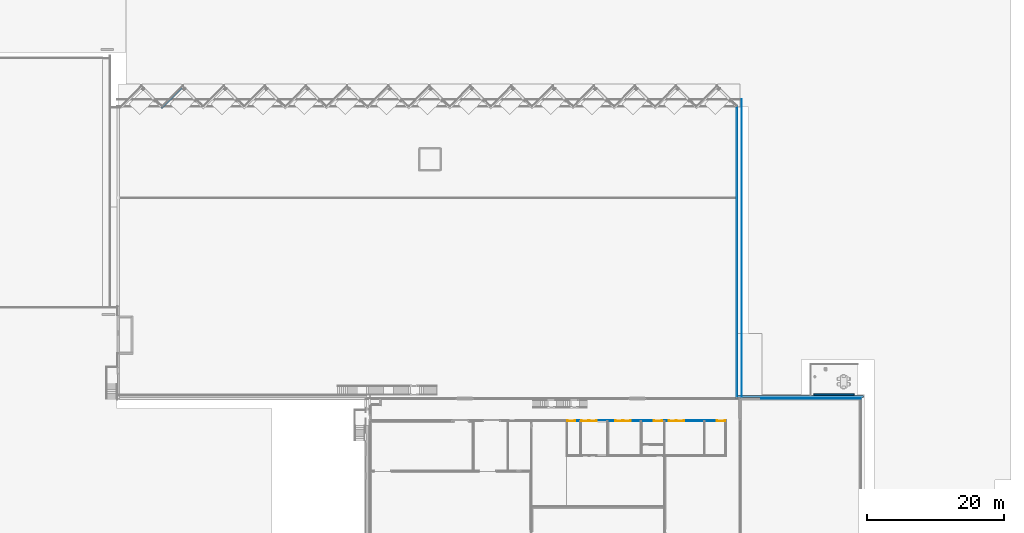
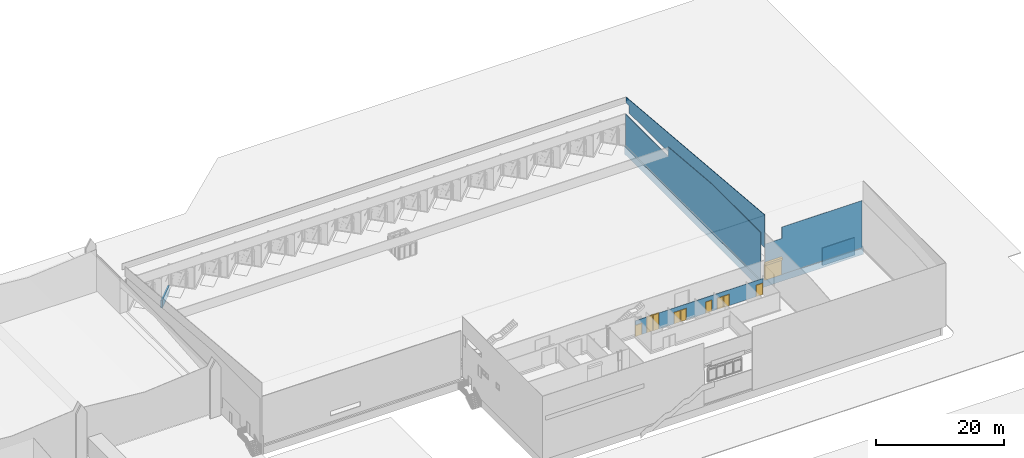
# One storey, part 25 of 64: 10 doors, 8 walls, 13 openings.
"""IFC2X3 building model written with IfcOpenShell, lengths in millimetres."""

from ifc_helpers import new_model, entity, si_unit, converted_unit, derived_unit, direction, frame, frame_2d, origin, origin_2d_with_axis, place, context, subcontext, project, spatial, polyline, rectangle, outline, extrude, clip, halfspace, source, transform, mapped, material, material_list, layer, layer_set, layer_usage, type_object, type_shapes, element, fill, save


model = new_model("IFC2X3")

# Units and contexts
model_context = context("Model", 3, precision=0.01, world=origin(), true_north=direction((4.05803320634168e-15, -1.0)))
body_context = subcontext(model_context, "Body", "Model", "MODEL_VIEW")
ifc_project = project(units=[si_unit("LENGTHUNIT", "METRE", prefix="MILLI"), si_unit("AREAUNIT", "SQUARE_METRE"), si_unit("VOLUMEUNIT", "CUBIC_METRE"), converted_unit("PLANEANGLEUNIT", "DEGREE", entity("IfcRatioMeasure", 0.0174532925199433), si_unit("PLANEANGLEUNIT", "RADIAN"), dimensions=[0, 0, 0, 0, 0, 0, 0]), si_unit("MASSUNIT", "GRAM", prefix="KILO"), derived_unit("MASSDENSITYUNIT", [(si_unit("MASSUNIT", "GRAM", prefix="KILO"), 1), (si_unit("LENGTHUNIT", "METRE"), -3)]), si_unit("TIMEUNIT", "SECOND"), si_unit("FREQUENCYUNIT", "HERTZ"), si_unit("THERMODYNAMICTEMPERATUREUNIT", "DEGREE_CELSIUS"), derived_unit("THERMALTRANSMITTANCEUNIT", [(si_unit("MASSUNIT", "GRAM", prefix="KILO"), 1), (si_unit("THERMODYNAMICTEMPERATUREUNIT", "KELVIN"), -1), (si_unit("TIMEUNIT", "SECOND"), -3)]), derived_unit("VOLUMETRICFLOWRATEUNIT", [(si_unit("LENGTHUNIT", "METRE"), 3), (si_unit("TIMEUNIT", "SECOND"), -1)]), si_unit("ELECTRICCURRENTUNIT", "AMPERE"), si_unit("ELECTRICVOLTAGEUNIT", "VOLT"), si_unit("POWERUNIT", "WATT"), si_unit("FORCEUNIT", "NEWTON", prefix="KILO"), si_unit("ILLUMINANCEUNIT", "LUX"), si_unit("LUMINOUSFLUXUNIT", "LUMEN"), si_unit("LUMINOUSINTENSITYUNIT", "CANDELA"), derived_unit("USERDEFINED", [(si_unit("MASSUNIT", "GRAM", prefix="KILO"), -1), (si_unit("LENGTHUNIT", "METRE"), -2), (si_unit("TIMEUNIT", "SECOND"), 3), (si_unit("LUMINOUSFLUXUNIT", "LUMEN"), 1)]), derived_unit("LINEARVELOCITYUNIT", [(si_unit("LENGTHUNIT", "METRE"), 1), (si_unit("TIMEUNIT", "SECOND"), -1)]), si_unit("PRESSUREUNIT", "PASCAL"), derived_unit("USERDEFINED", [(si_unit("LENGTHUNIT", "METRE"), -2), (si_unit("MASSUNIT", "GRAM", prefix="KILO"), 1), (si_unit("TIMEUNIT", "SECOND"), -2)])], contexts=[model_context])

# Site, building, storey
site_placement = place(None, frame((927466.849349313, 583801.882853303, 0.0), z_axis=(0.0, 0.0, 1.0), x_axis=(-1.0, 0.0, 0.0)))
site = spatial("IfcSite", under=ifc_project, at=site_placement, Name="Surface", CompositionType="ELEMENT")
building_placement = place(site_placement, origin())
building = spatial("IfcBuilding", under=site, at=building_placement, CompositionType="ELEMENT")
storey_placement = place(building_placement, frame((0.0, 0.0, 44170.0)))
storey = spatial("IfcBuildingStorey", under=building, at=storey_placement, Name="Ground FFL", CompositionType="ELEMENT", Elevation=44170.0)

# Wall, opening
ifc_material_1 = material(Name="Isopenal")
ifc_layer_1 = layer(ifc_material_1, 100.0)
ifc_layer_set_1 = layer_set([ifc_layer_1], Name="Basic Wall:Isopanel")
ifc_layer_usage_1 = layer_usage(ifc_layer_set_1, "AXIS2", "POSITIVE", -50.0)
wall_type_1 = type_object("IfcWallType", Name="Basic Wall:Isopanel", PredefinedType="STANDARD", material=ifc_layer_set_1)
wall_1_placement = place(storey_placement, frame((-134850.59177989, -30556.7403210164, 0.0), z_axis=(0.0, 0.0, 1.0), x_axis=(0.0, 1.0, 0.0)))
wall_1 = element("IfcWallStandardCase", 1, at=wall_1_placement, inside=storey, type_object=wall_type_1, material=ifc_layer_usage_1, Name="Basic Wall:Isopanel", ObjectType="Basic Wall:Isopanel", context=body_context, shape_type="Clipping", body=[
    clip(clip(extrude(rectangle(XDim=42155.0180722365, YDim=100.000000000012, at=frame_2d((21077.5090361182, -6.32027763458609e-12), x_axis=(-1.0, 0.0))), origin(), (0.0, 0.0, 1.0), 8999.99999999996), halfspace(frame((13235.0, -50.0, 7803.95560293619), z_axis=(-0.0873184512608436, 0.0, 0.996180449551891), x_axis=(0.0, 1.0, 0.0)), False)), halfspace(frame((13285.0, 0.0, 7808.33826529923), z_axis=(-0.134378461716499, 0.0, 0.990930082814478), x_axis=(0.0, 1.0, 0.0)), False)),
])
opening_1_placement = place(wall_1_placement, origin())
element("IfcOpeningElement", 2, at=opening_1_placement, cuts=wall_1, Name="Basic Wall:Isopanel", ObjectType="Opening", context=body_context, shape_type="SweptSolid", body=[
    extrude(outline(polyline([(-4566.68536101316, -597.312262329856), (8890.36900767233, -597.31226232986), (-4323.68364665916, 1194.62452465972), (-4566.68536101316, -597.312262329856)])), frame((8840.0, 50.0, 6602.7794217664), z_axis=(0.0, -1.0, 0.0), x_axis=(-0.990930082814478, 0.0, -0.134378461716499)), (0.0, 0.0, 1.0), 100.0),
])

# Wall, openings, doors
ifc_layer_usage_2 = layer_usage(ifc_layer_set_1, "AXIS2", "NEGATIVE", 50.0)
wall_2_placement = place(storey_placement, frame((-110127.93727682, 15157.4703267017, 0.0), z_axis=(0.0, 0.0, 1.0), x_axis=(-1.0, 0.0, 0.0)))
wall_2 = element("IfcWallStandardCase", 3, at=wall_2_placement, inside=storey, type_object=wall_type_1, material=ifc_layer_usage_2, Name="Basic Wall:Isopanel", ObjectType="Basic Wall:Isopanel", context=body_context, shape_type="SweptSolid", body=[
    extrude(rectangle(XDim=23020.0000000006, YDim=99.9999999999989, at=frame_2d((11510.0000000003, 2.02504679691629e-13), x_axis=(-1.0, 0.0))), origin(), (0.0, 0.0, 1.0), 3000.00000000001),
])
opening_2_placement = place(wall_2_placement, frame((22920.0, 50.0, 0.0)))
opening_2 = element("IfcOpeningElement", 4, at=opening_2_placement, cuts=wall_2, Name="M_Single-Flush:1050 x 2134mm:1", ObjectType="Opening", context=body_context, shape_type="SweptSolid", body=[
    extrude(rectangle(XDim=1050.0, YDim=2134.0, at=frame_2d((1067.0, 525.000000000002), x_axis=(0.0, -1.0))), frame((0.0, 0.0, 0.0), z_axis=(0.0, -1.0, 0.0), x_axis=(0.0, 0.0, 1.0)), (0.0, 0.0, 1.0), 100.0),
])
opening_3_placement = place(wall_2_placement, frame((16934.0, 50.0, 0.0)))
opening_3 = element("IfcOpeningElement", 5, at=opening_3_placement, cuts=wall_2, Name="M_Single-Flush:1050 x 2134mm:1", ObjectType="Opening", context=body_context, shape_type="SweptSolid", body=[
    extrude(rectangle(XDim=1050.0, YDim=2134.0, at=frame_2d((1067.0, 525.000000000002), x_axis=(0.0, -1.0))), frame((0.0, 0.0, 0.0), z_axis=(0.0, -1.0, 0.0), x_axis=(0.0, 0.0, 1.0)), (0.0, 0.0, 1.0), 100.0),
])
opening_4_placement = place(wall_2_placement, frame((15884.062500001, 50.0, 0.0)))
opening_4 = element("IfcOpeningElement", 6, at=opening_4_placement, cuts=wall_2, Name="M_Single-Flush:1050 x 2134mm:1", ObjectType="Opening", context=body_context, shape_type="SweptSolid", body=[
    extrude(rectangle(XDim=1050.0, YDim=2134.0, at=frame_2d((1067.0, 525.000000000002), x_axis=(0.0, 1.0))), frame((0.0, 0.0, 0.0), z_axis=(0.0, -1.0, 0.0), x_axis=(0.0, 0.0, 1.0)), (0.0, 0.0, 1.0), 100.0),
])
opening_5_placement = place(wall_2_placement, frame((13750.0, 50.0, 0.0)))
opening_5 = element("IfcOpeningElement", 7, at=opening_5_placement, cuts=wall_2, Name="M_Single-Flush:1050 x 2134mm:1", ObjectType="Opening", context=body_context, shape_type="SweptSolid", body=[
    extrude(rectangle(XDim=1050.0, YDim=2134.0, at=frame_2d((1067.0, 525.000000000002), x_axis=(0.0, -1.0))), frame((0.0, 0.0, 0.0), z_axis=(0.0, -1.0, 0.0), x_axis=(0.0, 0.0, 1.0)), (0.0, 0.0, 1.0), 100.0),
])
opening_6_placement = place(wall_2_placement, frame((9166.32040193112, 50.0, 0.0)))
opening_6 = element("IfcOpeningElement", 8, at=opening_6_placement, cuts=wall_2, Name="M_Single-Flush:1050 x 2134mm:1", ObjectType="Opening", context=body_context, shape_type="SweptSolid", body=[
    extrude(rectangle(XDim=1050.0, YDim=2134.0, at=frame_2d((1067.0, 525.000000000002), x_axis=(0.0, -1.0))), frame((0.0, 0.0, 0.0), z_axis=(0.0, -1.0, 0.0), x_axis=(0.0, 0.0, 1.0)), (0.0, 0.0, 1.0), 100.0),
])
opening_7_placement = place(wall_2_placement, frame((4209.4374898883, 50.0, 0.0)))
opening_7 = element("IfcOpeningElement", 9, at=opening_7_placement, cuts=wall_2, Name="M_Single-Flush:1050 x 3000mm:1", ObjectType="Opening", context=body_context, shape_type="SweptSolid", body=[
    extrude(rectangle(XDim=1050.0, YDim=3000.0, at=frame_2d((1500.0, 525.000000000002), x_axis=(0.0, -1.0))), frame((0.0, 0.0, 0.0), z_axis=(0.0, -1.0, 0.0), x_axis=(0.0, 0.0, 1.0)), (0.0, 0.0, 1.0), 100.0),
])
opening_8_placement = place(wall_2_placement, frame((3161.05457784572, 50.0, 0.0)))
opening_8 = element("IfcOpeningElement", 10, at=opening_8_placement, cuts=wall_2, Name="M_Single-Flush:1050 x 3000mm:1", ObjectType="Opening", context=body_context, shape_type="SweptSolid", body=[
    extrude(rectangle(XDim=1050.0, YDim=3000.0, at=frame_2d((1500.0, 525.000000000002), x_axis=(0.0, 1.0))), frame((0.0, 0.0, 0.0), z_axis=(0.0, -1.0, 0.0), x_axis=(0.0, 0.0, 1.0)), (0.0, 0.0, 1.0), 100.0),
])
opening_9_placement = place(wall_2_placement, frame((8117.93748988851, 50.0, 0.0)))
opening_9 = element("IfcOpeningElement", 11, at=opening_9_placement, cuts=wall_2, Name="M_Single-Flush:1050 x 2134mm:1", ObjectType="Opening", context=body_context, shape_type="SweptSolid", body=[
    extrude(rectangle(XDim=1050.0, YDim=2134.0, at=frame_2d((1067.0, 525.000000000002), x_axis=(0.0, 1.0))), frame((0.0, 0.0, 0.0), z_axis=(0.0, -1.0, 0.0), x_axis=(0.0, 0.0, 1.0)), (0.0, 0.0, 1.0), 100.0),
])
opening_10_placement = place(wall_2_placement, frame((1102.49999999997, 50.0, 0.0)))
opening_10 = element("IfcOpeningElement", 12, at=opening_10_placement, cuts=wall_2, Name="M_Single-Flush:1050 x 2134mm:1", ObjectType="Opening", context=body_context, shape_type="SweptSolid", body=[
    extrude(rectangle(XDim=1050.0, YDim=2134.0, at=frame_2d((1067.0, 525.000000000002), x_axis=(0.0, 1.0))), frame((0.0, 0.0, 0.0), z_axis=(0.0, -1.0, 0.0), x_axis=(0.0, 0.0, 1.0)), (0.0, 0.0, 1.0), 100.0),
])
ifc_material_2 = material(Name="Door - Frame")
ifc_material_3 = material(Name="Door - Panel")
ifc_material_list_1 = material_list([ifc_material_2, ifc_material_3])
ifc_material_list_2 = material_list([ifc_material_2, ifc_material_3])
door_style_1 = type_object("IfcDoorStyle", Name="1050 x 2134mm", ConstructionType="NOTDEFINED", OperationType="SINGLE_SWING_LEFT", ParameterTakesPrecedence=False, Sizeable=False, material=ifc_material_list_2)
shared_shape_1 = source(origin(), body_context, "Body", "SweptSolid", [
    extrude(outline(polyline([(-601.0, -1124.0), (601.0, -1124.0), (601.0, 1086.0), (525.0, 1086.0), (525.0, -1048.0), (-525.0, -1048.0), (-525.0, 1086.0), (-601.0, 1086.0), (-601.0, -1124.0)])), frame((525.0, 125.0, 1086.0), z_axis=(0.0, -1.0, 0.0), x_axis=(-1.0, 0.0, 0.0)), (0.0, 0.0, 1.0), 24.9999999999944),
    extrude(outline(polyline([(-1124.0, -601.0), (1086.0, -601.0), (1086.0, -525.0), (-1048.0, -525.0), (-1048.0, 525.0), (1086.0, 525.0), (1086.0, 601.0), (-1124.0, 601.0), (-1124.0, -601.0)])), frame((525.0, 0.0, 1086.0), z_axis=(0.0, -1.0, 0.0), x_axis=(0.0, 0.0, -1.0)), (0.0, 0.0, 1.0), 25.0000000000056),
    extrude(rectangle(XDim=1050.0, YDim=51.0, at=origin_2d_with_axis()), frame((525.0, 74.4999999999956, 0.0)), (0.0, 0.0, 1.0), 2134.0),
])
type_shapes(door_style_1, [shared_shape_1])
door_1_placement = place(opening_2_placement, frame((0.0, 0.0, 0.0), z_axis=(0.0, 0.0, 1.0), x_axis=(-1.0, 0.0, 0.0)))
door_1 = element("IfcDoor", 13, at=door_1_placement, inside=storey, type_object=door_style_1, material=ifc_material_list_1, Name="M_Single-Flush:1050 x 2134mm", ObjectType="1050 x 2134mm", OverallHeight=2134.0, OverallWidth=1050.0, context=body_context, shape_type="MappedRepresentation", body=[
    mapped(shared_shape_1, transform((0.0, 0.0, 0.0), scale=1.0)),
])
fill(opening_2, door_1)
ifc_material_list_3 = material_list([ifc_material_2, ifc_material_3])
door_2_placement = place(opening_3_placement, frame((0.0, 0.0, 0.0), z_axis=(0.0, 0.0, 1.0), x_axis=(-1.0, 0.0, 0.0)))
door_2 = element("IfcDoor", 14, at=door_2_placement, inside=storey, type_object=door_style_1, material=ifc_material_list_3, Name="M_Single-Flush:1050 x 2134mm", ObjectType="1050 x 2134mm", OverallHeight=2134.0, OverallWidth=1050.0, context=body_context, shape_type="MappedRepresentation", body=[
    mapped(shared_shape_1, transform((0.0, 0.0, 0.0), scale=1.0)),
])
fill(opening_3, door_2)
ifc_material_list_4 = material_list([ifc_material_2, ifc_material_3])
door_3_placement = place(opening_5_placement, frame((1.03318598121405e-09, 0.0, 0.0), z_axis=(0.0, 0.0, 1.0), x_axis=(-1.0, 0.0, 0.0)))
door_3 = element("IfcDoor", 15, at=door_3_placement, inside=storey, type_object=door_style_1, material=ifc_material_list_4, Name="M_Single-Flush:1050 x 2134mm", ObjectType="1050 x 2134mm", OverallHeight=2134.0, OverallWidth=1050.0, context=body_context, shape_type="MappedRepresentation", body=[
    mapped(shared_shape_1, transform((0.0, 0.0, 0.0), scale=1.0)),
])
fill(opening_5, door_3)
ifc_material_list_5 = material_list([ifc_material_2, ifc_material_3])
door_4_placement = place(opening_6_placement, frame((0.0, 0.0, 0.0), z_axis=(0.0, 0.0, 1.0), x_axis=(-1.0, 0.0, 0.0)))
door_4 = element("IfcDoor", 16, at=door_4_placement, inside=storey, type_object=door_style_1, material=ifc_material_list_5, Name="M_Single-Flush:1050 x 2134mm", ObjectType="1050 x 2134mm", OverallHeight=2134.0, OverallWidth=1050.0, context=body_context, shape_type="MappedRepresentation", body=[
    mapped(shared_shape_1, transform((0.0, 0.0, 0.0), scale=1.0)),
])
fill(opening_6, door_4)
ifc_material_list_6 = material_list([ifc_material_2, ifc_material_3])
ifc_material_list_7 = material_list([ifc_material_2, ifc_material_3])
door_style_2 = type_object("IfcDoorStyle", Name="1050 x 2134mm", ConstructionType="NOTDEFINED", OperationType="SINGLE_SWING_RIGHT", ParameterTakesPrecedence=False, Sizeable=False, material=ifc_material_list_7)
shared_shape_2 = source(origin(), body_context, "Body", "SweptSolid", [
    extrude(outline(polyline([(-601.0, -1124.0), (601.0, -1124.0), (601.0, 1086.0), (525.0, 1086.0), (525.0, -1048.0), (-525.0, -1048.0), (-525.0, 1086.0), (-601.0, 1086.0), (-601.0, -1124.0)])), frame((525.0, 100.0, 1086.0), z_axis=(0.0, 1.0, 0.0), x_axis=(1.0, 0.0, 0.0)), (0.0, 0.0, 1.0), 24.9999999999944),
    extrude(outline(polyline([(-1124.0, -601.0), (1086.0, -601.0), (1086.0, -525.0), (-1048.0, -525.0), (-1048.0, 525.0), (1086.0, 525.0), (1086.0, 601.0), (-1124.0, 601.0), (-1124.0, -601.0)])), frame((525.0, -25.0, 1086.0), z_axis=(0.0, 1.0, 0.0), x_axis=(0.0, 0.0, -1.0)), (0.0, 0.0, 1.0), 25.0000000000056),
    extrude(rectangle(XDim=51.0, YDim=1050.0, at=origin_2d_with_axis()), frame((525.0, 74.500000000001, 0.0), z_axis=(0.0, 0.0, 1.0), x_axis=(0.0, 1.0, 0.0)), (0.0, 0.0, 1.0), 2134.0),
])
type_shapes(door_style_2, [shared_shape_2])
door_5_placement = place(opening_4_placement, frame((0.00022317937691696, 0.0, 0.0), z_axis=(0.0, 0.0, 1.0), x_axis=(-1.0, 0.0, 0.0)))
door_5 = element("IfcDoor", 17, at=door_5_placement, inside=storey, type_object=door_style_2, material=ifc_material_list_6, Name="M_Single-Flush:1050 x 2134mm", ObjectType="1050 x 2134mm", OverallHeight=2134.0, OverallWidth=1050.0, context=body_context, shape_type="MappedRepresentation", body=[
    mapped(shared_shape_2, transform((0.0, 0.0, 0.0), scale=1.0)),
])
fill(opening_4, door_5)
ifc_material_list_8 = material_list([ifc_material_2, ifc_material_3])
door_6_placement = place(opening_9_placement, frame((0.0, 0.0, 0.0), z_axis=(0.0, 0.0, 1.0), x_axis=(-1.0, 0.0, 0.0)))
door_6 = element("IfcDoor", 18, at=door_6_placement, inside=storey, type_object=door_style_2, material=ifc_material_list_8, Name="M_Single-Flush:1050 x 2134mm", ObjectType="1050 x 2134mm", OverallHeight=2134.0, OverallWidth=1050.0, context=body_context, shape_type="MappedRepresentation", body=[
    mapped(shared_shape_2, transform((0.0, 0.0, 0.0), scale=1.0)),
])
fill(opening_9, door_6)
ifc_material_list_9 = material_list([ifc_material_2, ifc_material_3])
door_7_placement = place(opening_10_placement, frame((0.0, 0.0, 0.0), z_axis=(0.0, 0.0, 1.0), x_axis=(-1.0, 0.0, 0.0)))
door_7 = element("IfcDoor", 19, at=door_7_placement, inside=storey, type_object=door_style_2, material=ifc_material_list_9, Name="M_Single-Flush:1050 x 2134mm", ObjectType="1050 x 2134mm", OverallHeight=2134.0, OverallWidth=1050.0, context=body_context, shape_type="MappedRepresentation", body=[
    mapped(shared_shape_2, transform((0.0, 0.0, 0.0), scale=1.0)),
])
fill(opening_10, door_7)
ifc_material_list_10 = material_list([ifc_material_2, ifc_material_3])
ifc_material_list_11 = material_list([ifc_material_2, ifc_material_3])
door_style_3 = type_object("IfcDoorStyle", Name="1050 x 3000mm", ConstructionType="NOTDEFINED", OperationType="SINGLE_SWING_LEFT", ParameterTakesPrecedence=False, Sizeable=False, material=ifc_material_list_11)
shared_shape_3 = source(origin(), body_context, "Body", "SweptSolid", [
    extrude(outline(polyline([(-601.0, -1557.0), (601.0, -1557.0), (601.0, 1519.0), (525.0, 1519.0), (525.0, -1481.0), (-525.0, -1481.0), (-525.0, 1519.0), (-601.0, 1519.0), (-601.0, -1557.0)])), frame((525.0, 125.0, 1519.0), z_axis=(0.0, -1.0, 0.0), x_axis=(-1.0, 0.0, 0.0)), (0.0, 0.0, 1.0), 24.9999999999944),
    extrude(outline(polyline([(-1557.0, -601.0), (1519.0, -601.0), (1519.0, -525.0), (-1481.0, -525.0), (-1481.0, 525.0), (1519.0, 525.0), (1519.0, 601.0), (-1557.0, 601.0), (-1557.0, -601.0)])), frame((525.0, 0.0, 1519.0), z_axis=(0.0, -1.0, 0.0), x_axis=(0.0, 0.0, -1.0)), (0.0, 0.0, 1.0), 25.0000000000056),
    extrude(rectangle(XDim=1050.0, YDim=51.0, at=origin_2d_with_axis()), frame((525.0, 74.4999999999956, 0.0)), (0.0, 0.0, 1.0), 3000.0),
])
type_shapes(door_style_3, [shared_shape_3])
door_8_placement = place(opening_7_placement, frame((0.0, 0.0, 0.0), z_axis=(0.0, 0.0, 1.0), x_axis=(-1.0, 0.0, 0.0)))
door_8 = element("IfcDoor", 20, at=door_8_placement, inside=storey, type_object=door_style_3, material=ifc_material_list_10, Name="M_Single-Flush:1050 x 3000mm", ObjectType="1050 x 3000mm", OverallHeight=3000.0, OverallWidth=1050.0, context=body_context, shape_type="MappedRepresentation", body=[
    mapped(shared_shape_3, transform((0.0, 0.0, 0.0), scale=1.0)),
])
fill(opening_7, door_8)
ifc_material_list_12 = material_list([ifc_material_2, ifc_material_3])
ifc_material_list_13 = material_list([ifc_material_2, ifc_material_3])
door_style_4 = type_object("IfcDoorStyle", Name="1050 x 3000mm", ConstructionType="NOTDEFINED", OperationType="SINGLE_SWING_RIGHT", ParameterTakesPrecedence=False, Sizeable=False, material=ifc_material_list_13)
shared_shape_4 = source(origin(), body_context, "Body", "SweptSolid", [
    extrude(outline(polyline([(-601.0, -1557.0), (601.0, -1557.0), (601.0, 1519.0), (525.0, 1519.0), (525.0, -1481.0), (-525.0, -1481.0), (-525.0, 1519.0), (-601.0, 1519.0), (-601.0, -1557.0)])), frame((525.0, 100.0, 1519.0), z_axis=(0.0, 1.0, 0.0), x_axis=(1.0, 0.0, 0.0)), (0.0, 0.0, 1.0), 24.9999999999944),
    extrude(outline(polyline([(-1557.0, -601.0), (1519.0, -601.0), (1519.0, -525.0), (-1481.0, -525.0), (-1481.0, 525.0), (1519.0, 525.0), (1519.0, 601.0), (-1557.0, 601.0), (-1557.0, -601.0)])), frame((525.0, -25.0, 1519.0), z_axis=(0.0, 1.0, 0.0), x_axis=(0.0, 0.0, -1.0)), (0.0, 0.0, 1.0), 25.0000000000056),
    extrude(rectangle(XDim=51.0, YDim=1050.0, at=origin_2d_with_axis()), frame((525.0, 74.500000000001, 0.0), z_axis=(0.0, 0.0, 1.0), x_axis=(0.0, 1.0, 0.0)), (0.0, 0.0, 1.0), 3000.0),
])
type_shapes(door_style_4, [shared_shape_4])
door_9_placement = place(opening_8_placement, frame((0.0, 0.0, 0.0), z_axis=(0.0, 0.0, 1.0), x_axis=(-1.0, 0.0, 0.0)))
door_9 = element("IfcDoor", 21, at=door_9_placement, inside=storey, type_object=door_style_4, material=ifc_material_list_12, Name="M_Single-Flush:1050 x 3000mm", ObjectType="1050 x 3000mm", OverallHeight=3000.0, OverallWidth=1050.0, context=body_context, shape_type="MappedRepresentation", body=[
    mapped(shared_shape_4, transform((0.0, 0.0, 0.0), scale=1.0)),
])
fill(opening_8, door_9)

# Wall, opening
ifc_material_4 = material(Name="Cladding(2)")
ifc_layer_2 = layer(ifc_material_4, 38.0)
ifc_layer_set_2 = layer_set([ifc_layer_2], Name="Basic Wall:Cladding 3")
ifc_layer_usage_3 = layer_usage(ifc_layer_set_2, "AXIS2", "POSITIVE", -19.0)
wall_type_2 = type_object("IfcWallType", Name="Basic Wall:Cladding 3", PredefinedType="NOTDEFINED")
wall_3_placement = place(storey_placement, frame((-135519.59177989, -31661.7403210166, 5900.0), z_axis=(0.0, 0.0, 1.0), x_axis=(0.0, 1.0, 0.0)))
wall_3 = element("IfcWallStandardCase", 22, at=wall_3_placement, inside=storey, type_object=wall_type_2, material=ifc_layer_usage_3, Name="Basic Wall:Cladding 3", ObjectType="Basic Wall:Cladding 3", context=body_context, shape_type="Clipping", body=[
    clip(clip(extrude(rectangle(XDim=43339.4141816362, YDim=37.9999999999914, at=frame_2d((21669.7070908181, -1.62714286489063e-12), x_axis=(-1.0, 0.0))), origin(), (0.0, 0.0, 1.0), 6300.61035391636), halfspace(frame((0.0, -19.0, 2508.90292916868), z_axis=(-0.087155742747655, 0.0, 0.996194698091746), x_axis=(0.0, 1.0, 0.0)), False)), halfspace(frame((43339.4141816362, -19.0, 0.0), z_axis=(0.0, 0.0, -1.0), x_axis=(0.0, 1.0, 0.0)), False)),
])
opening_11_placement = place(wall_3_placement, origin())
element("IfcOpeningElement", 23, at=opening_11_placement, cuts=wall_3, Name="Basic Wall:Cladding 3", ObjectType="Opening", context=body_context, shape_type="SweptSolid", body=[
    extrude(rectangle(XDim=1400.0, YDim=1005.00000000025, at=frame_2d((4.32009983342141e-12, 2.18847162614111e-12), x_axis=(1.0, 0.0))), frame((502.500000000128, 19.0, 700.0), z_axis=(0.0, -1.0, 0.0), x_axis=(0.0, 0.0, 1.0)), (0.0, 0.0, 1.0), 38.0),
])

# Walls
ifc_material_5 = material(Name="conc bund")
ifc_layer_3 = layer(ifc_material_5, 300.0)
ifc_layer_set_3 = layer_set([ifc_layer_3], Name="Basic Wall:300 bund wall")
ifc_layer_usage_4 = layer_usage(ifc_layer_set_3, "AXIS2", "NEGATIVE", 150.0)
wall_type_3 = type_object("IfcWallType", Name="Basic Wall:300 bund wall", PredefinedType="STANDARD", material=ifc_layer_set_3)
wall_4_placement = place(storey_placement, frame((-134750.59177989, -30573.8428022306, -1500.0), z_axis=(0.0, 0.0, 1.0), x_axis=(0.0, 1.0, 0.0)))
element("IfcWallStandardCase", 24, at=wall_4_placement, inside=storey, type_object=wall_type_3, material=ifc_layer_usage_4, Name="Basic Wall:300 bund wall", ObjectType="Basic Wall:300 bund wall", context=body_context, shape_type="SweptSolid", body=[
    extrude(outline(polyline([(42532.1205534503, -150.0), (42532.1205534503, 150.0), (42322.1205534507, 150.0), (42022.1205534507, 150.0), (300.0, 150.0), (0.0, -150.0), (42532.1205534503, -150.0)])), origin(), (0.0, 0.0, 1.0), 1500.00000000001),
])
ifc_layer_usage_5 = layer_usage(ifc_layer_set_3, "AXIS2", "POSITIVE", -150.0)
wall_5_placement = place(storey_placement, frame((-54009.1077132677, -33356.124220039, -1500.0), z_axis=(0.0, 0.0, 1.0), x_axis=(0.70710678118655, 0.707106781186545, 0.0)))
element("IfcWallStandardCase", 25, at=wall_5_placement, inside=storey, type_object=wall_type_3, material=ifc_layer_usage_5, Name="Basic Wall:300 bund wall", ObjectType="Basic Wall:300 bund wall", context=body_context, shape_type="SweptSolid", body=[
    extrude(rectangle(XDim=4232.26267936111, YDim=299.999999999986, at=frame_2d((2116.13133968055, 4.68958205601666e-13), x_axis=(-1.0, 0.0))), origin(), (0.0, 0.0, 1.0), 1500.00000000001),
])
ifc_layer_usage_6 = layer_usage(ifc_layer_set_3, "AXIS2", "NEGATIVE", 150.0)
wall_6_placement = place(storey_placement, frame((-134900.59177989, 11598.2777512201, -1500.0), z_axis=(0.0, 0.0, 1.0), x_axis=(-1.0, 0.0, 0.0)))
element("IfcWallStandardCase", 26, at=wall_6_placement, inside=storey, type_object=wall_type_3, material=ifc_layer_usage_6, Name="Basic Wall:300 bund wall", ObjectType="Basic Wall:300 bund wall", context=body_context, shape_type="SweptSolid", body=[
    extrude(rectangle(XDim=18350.0, YDim=300.000000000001, at=frame_2d((9174.99999999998, -3.83693077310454e-13), x_axis=(-1.0, 0.0))), origin(), (0.0, 0.0, 1.0), 1500.00000000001),
])

# Wall, openings, door
ifc_layer_4 = layer(ifc_material_1, 50.0)
ifc_layer_set_4 = layer_set([ifc_layer_4], Name="Basic Wall:Isopanel 50mm")
ifc_layer_usage_7 = layer_usage(ifc_layer_set_4, "AXIS2", "NEGATIVE", 25.0)
wall_type_4 = type_object("IfcWallType", Name="Basic Wall:Isopanel 50mm", PredefinedType="STANDARD", material=ifc_layer_set_4)
wall_7_placement = place(storey_placement, frame((-152848.690247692, 11933.2777512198, 0.0)))
wall_7 = element("IfcWallStandardCase", 27, at=wall_7_placement, inside=storey, type_object=wall_type_4, material=ifc_layer_usage_7, Name="Basic Wall:Isopanel 50mm", ObjectType="Basic Wall:Isopanel 50mm", context=body_context, shape_type="SweptSolid", body=[
    extrude(rectangle(XDim=17429.0984678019, YDim=50.0000000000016, at=frame_2d((8714.54923390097, -1.54543045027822e-13), x_axis=(-1.0, 0.0))), origin(), (0.0, 0.0, 1.0), 9000.0),
])
opening_12_placement = place(wall_7_placement, origin())
element("IfcOpeningElement", 28, at=opening_12_placement, cuts=wall_7, Name="Basic Wall:Isopanel 50mm", ObjectType="Opening", context=body_context, shape_type="SweptSolid", body=[
    extrude(rectangle(XDim=2438.4, YDim=2988.18807853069, at=origin_2d_with_axis()), frame((15916.0044285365, -25.0, 8057.10660368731), z_axis=(0.0, 1.0, 0.0), x_axis=(0.0, 0.0, -1.0)), (0.0, 0.0, 1.0), 50.0000000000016),
])
opening_13_placement = place(wall_7_placement, frame((17510.0984678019, 25.0, 0.0)))
opening_13 = element("IfcOpeningElement", 29, at=opening_13_placement, cuts=wall_7, Name="Rollershutter:3000(w) x 3000(h):1", ObjectType="Opening", context=body_context, shape_type="SweptSolid", body=[
    extrude(rectangle(XDim=3000.0, YDim=3000.0, at=frame_2d((1500.0, 1500.0), x_axis=(1.0, 0.0))), frame((0.0, 0.0, 0.0), z_axis=(0.0, -1.0, 0.0), x_axis=(0.0, 0.0, 1.0)), (0.0, 0.0, 1.0), 50.0),
])
ifc_material_6 = material(Name="Metal - Paint Finish - Ivory, Matte")
ifc_material_7 = material(Name="Metal - Galvanised")
ifc_material_list_14 = material_list([ifc_material_6, ifc_material_7])
ifc_material_list_15 = material_list([ifc_material_6, ifc_material_7])
door_style_5 = type_object("IfcDoorStyle", Name="3000(w) x 3000(h)", ConstructionType="NOTDEFINED", OperationType="NOTDEFINED", ParameterTakesPrecedence=False, Sizeable=False, material=ifc_material_list_15)
shared_shape_5 = source(origin(), body_context, "Body", "SweptSolid", [
    extrude(outline(polyline([(-33.9333333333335, -73.3333333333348), (-3.93333333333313, -73.3333333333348), (-3.93333333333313, 21.6666666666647), (37.8666666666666, 21.6666666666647), (37.8666666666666, 51.6666666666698), (-33.9333333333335, 51.6666666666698), (-33.9333333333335, -73.3333333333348)])), frame((-21.6666666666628, 46.0666666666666, 0.0), z_axis=(0.0, 0.0, 1.0), x_axis=(0.0, -1.0, 0.0)), (0.0, 0.0, 1.0), 3000.0),
    extrude(rectangle(XDim=3000.0, YDim=51.0, at=origin_2d_with_axis()), frame((1500.0, -25.5, 0.0), z_axis=(0.0, 0.0, 1.0), x_axis=(-1.0, 0.0, 0.0)), (0.0, 0.0, 1.0), 3000.0),
    extrude(outline(polyline([(-73.3333333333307, -33.9333333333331), (51.666666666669, -33.9333333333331), (51.666666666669, 37.8666666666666), (21.6666666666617, 37.8666666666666), (21.6666666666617, -3.93333333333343), (-73.3333333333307, -3.93333333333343), (-73.3333333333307, -33.9333333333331)])), frame((3021.66666666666, 46.0666666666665, 0.0), z_axis=(0.0, 0.0, 1.0), x_axis=(-1.0, 0.0, 0.0)), (0.0, 0.0, 1.0), 3000.0),
    extrude(rectangle(XDim=3000.0, YDim=400.0, at=frame_2d((3.41060513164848e-13, 4.2632564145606e-14), x_axis=(1.0, 0.0))), frame((1500.0, -200.0, 3000.0)), (0.0, 0.0, 1.0), 400.0),
])
type_shapes(door_style_5, [shared_shape_5])
door_10_placement = place(opening_13_placement, frame((0.0, 0.0, 0.0), z_axis=(0.0, 0.0, 1.0), x_axis=(-1.0, 0.0, 0.0)))
door_10 = element("IfcDoor", 30, at=door_10_placement, inside=storey, type_object=door_style_5, material=ifc_material_list_14, Name="Rollershutter:3000(w) x 3000(h)", ObjectType="3000(w) x 3000(h)", OverallHeight=3000.0, OverallWidth=2999.99999999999, context=body_context, shape_type="MappedRepresentation", body=[
    mapped(shared_shape_5, transform((0.0, 0.0, 0.0), scale=1.0)),
])
fill(opening_13, door_10)

# Wall
ifc_material_8 = material(Name="Brick, Common")
ifc_layer_5 = layer(ifc_material_8, 230.0)
ifc_layer_set_5 = layer_set([ifc_layer_5], Name="Basic Wall:wall Brick 230")
ifc_layer_usage_8 = layer_usage(ifc_layer_set_5, "AXIS2", "NEGATIVE", 115.0)
wall_type_5 = type_object("IfcWallType", Name="Basic Wall:wall Brick 230", PredefinedType="STANDARD", material=ifc_layer_set_5)
wall_8_placement = place(storey_placement, frame((-146050.545849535, 11309.0158270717, -1360.0), z_axis=(0.0, 0.0, 1.0), x_axis=(-1.0, 0.0, 0.0)))
element("IfcWallStandardCase", 31, at=wall_8_placement, inside=storey, type_object=wall_type_5, material=ifc_layer_usage_8, Name="Basic Wall:wall Brick 230", ObjectType="Basic Wall:wall Brick 230", context=body_context, shape_type="SweptSolid", body=[
    extrude(rectangle(XDim=5830.25555844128, YDim=230.0, at=frame_2d((2915.12777922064, 1.84741111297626e-13), x_axis=(-1.0, 0.0))), origin(), (0.0, 0.0, 1.0), 3343.4879189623),
])

save(model, "model.ifc")
